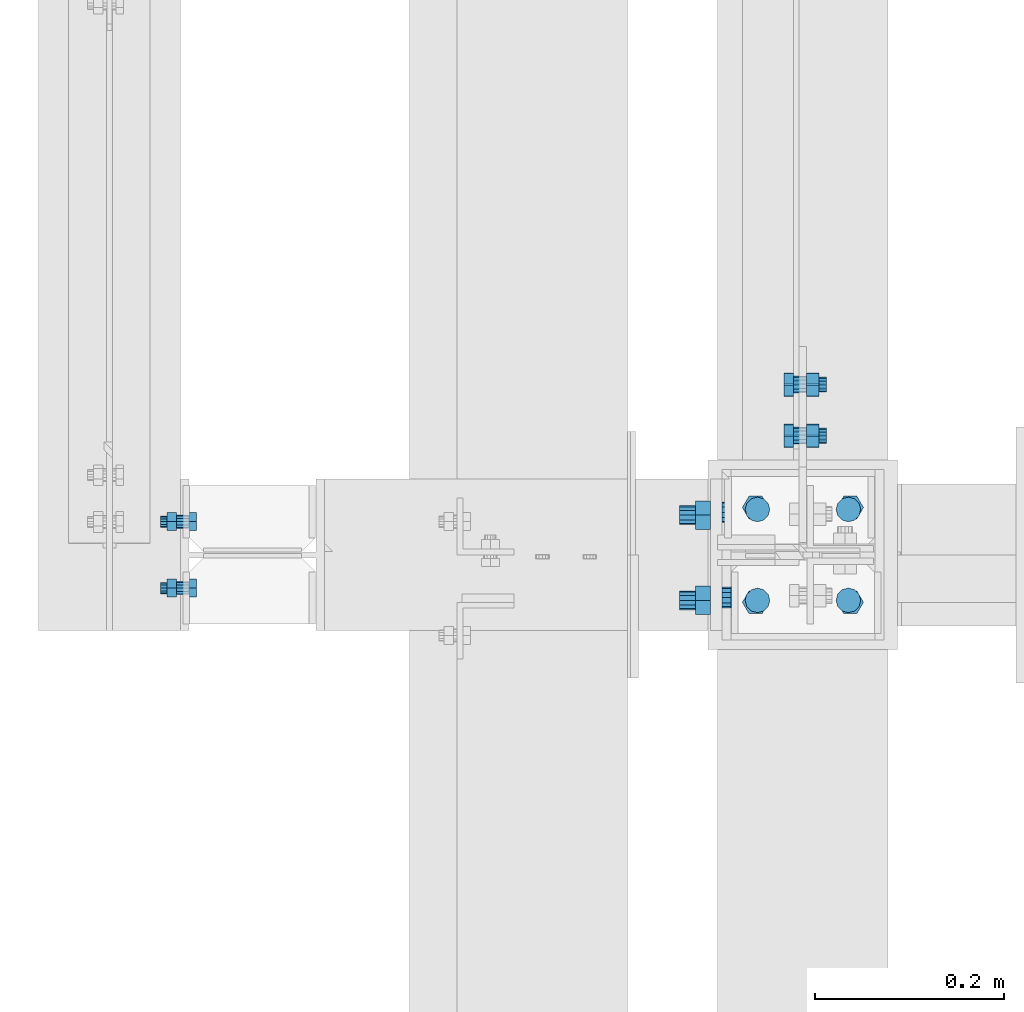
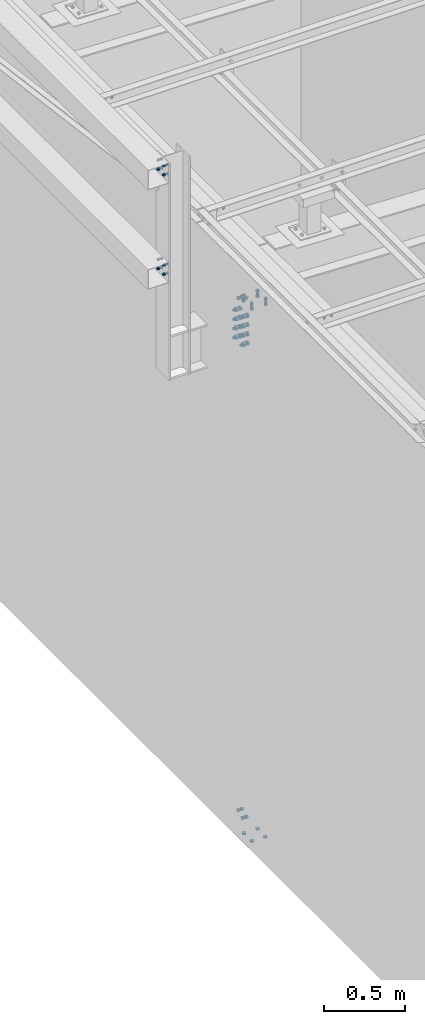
# One storey, part 181 of 3134: 9 mechanical fasteners, 4 elements without a shape of their own.
"""IFC2X3 building model written with IfcOpenShell, lengths in millimetres."""

import ifcopenshell
import ifcopenshell.guid

model = None  # the IFC model being written
_history = None  # IfcOwnerHistory: only IFC2X3 demands one
_inside = {}  # id of a spatial element -> (the spatial element, [elements in it])
_under = {}  # id of a project, library or spatial element -> (it, [spatial elements below it])
_declared = {}  # id of a project -> (the project, [libraries it declares])
_typed = {}  # id of a type object -> (the type object, [elements of that type])
_made_of = {}  # id of a material, layer set ... -> (it, [elements and type objects made of it])


def new_model(schema):
    """Start an empty IFC model of exactly this schema.

    Asked for "IFC4X3", IfcOpenShell would pick the latest addendum, in which some entities
    have other attributes; the version numbers below select the first issue.
    IFC2X3 requires an IfcOwnerHistory on every rooted entity: one is made here for all.
    """
    global model, _history
    if schema == "IFC4X3":
        model = ifcopenshell.file(schema_version=(4, 3, 0, 0))
    else:
        model = ifcopenshell.file(schema=schema)
    _inside.clear()
    _under.clear()
    _declared.clear()
    _typed.clear()
    _made_of.clear()
    _history = None
    if model.schema == "IFC2X3":
        org = make("IfcOrganization", Name="unknown")
        user = make(
            "IfcPersonAndOrganization",
            ThePerson=make("IfcPerson", FamilyName="unknown"),
            TheOrganization=org,
        )
        app = make(
            "IfcApplication",
            ApplicationDeveloper=org,
            Version="unknown",
            ApplicationFullName="unknown",
            ApplicationIdentifier="unknown",
        )
        _history = make(
            "IfcOwnerHistory",
            OwningUser=user,
            OwningApplication=app,
            ChangeAction="ADDED",
            CreationDate=0,
        )
    return model


def make(cls, **values):
    """One entity of the class cls with the attributes given. An attribute that is None is left unset."""
    return model.create_entity(
        cls, **{name: value for name, value in values.items() if value is not None}
    )


def rooted(cls, **values):
    """An entity with a GlobalId (a new one), such as an element, a storey or a relation."""
    return make(cls, GlobalId=ifcopenshell.guid.new(), OwnerHistory=_history, **values)


def si_unit(unit_type, name, prefix=None):
    """IfcSIUnit, for example si_unit("LENGTHUNIT", "METRE", prefix="MILLI")."""
    return make("IfcSIUnit", UnitType=unit_type, Prefix=prefix, Name=name)


def assignment(units):
    """IfcUnitAssignment: the units of a project."""
    return None if units is None else make("IfcUnitAssignment", Units=units)


def point(xyz):
    """IfcCartesianPoint."""
    return None if xyz is None else make("IfcCartesianPoint", Coordinates=xyz)


def direction(xyz):
    """IfcDirection."""
    return None if xyz is None else make("IfcDirection", DirectionRatios=xyz)


def frame(location, z_axis=None, x_axis=None):
    """IfcAxis2Placement3D, a coordinate frame: its origin and axes. An axis left out is left unset."""
    return make(
        "IfcAxis2Placement3D",
        Location=point(location),
        Axis=direction(z_axis),
        RefDirection=direction(x_axis),
    )


def origin_with_axes():
    """The frame at (0, 0, 0) with the z axis (0, 0, 1) and the x axis (1, 0, 0) written out."""
    return frame((0.0, 0.0, 0.0), z_axis=(0.0, 0.0, 1.0), x_axis=(1.0, 0.0, 0.0))


def place(relative_to, where):
    """IfcLocalPlacement: puts the frame where relative to a parent placement (None: the world)."""
    return make(
        "IfcLocalPlacement", PlacementRelTo=relative_to, RelativePlacement=where
    )


def context(
    kind, dimensions, precision=None, world=None, true_north=None, identifier=None
):
    """IfcGeometricRepresentationContext, for example the 3D "Model" context."""
    return make(
        "IfcGeometricRepresentationContext",
        ContextIdentifier=identifier,
        ContextType=kind,
        CoordinateSpaceDimension=dimensions,
        Precision=precision,
        WorldCoordinateSystem=world,
        TrueNorth=true_north,
    )


def subcontext(parent, identifier, kind, view, scale=None):
    """IfcGeometricRepresentationSubContext, for example "Body" below "Model"."""
    return make(
        "IfcGeometricRepresentationSubContext",
        ContextIdentifier=identifier,
        ContextType=kind,
        ParentContext=parent,
        TargetScale=scale,
        TargetView=view,
    )


def project(units=None, contexts=None):
    """IfcProject with its units and contexts."""
    return rooted(
        "IfcProject",
        Name="project",
        RepresentationContexts=contexts,
        UnitsInContext=assignment(units),
    )


def spatial(cls, under=None, at=None, **own):
    """A site, building, storey or space (cls), placed at a placement, below another one or the project."""
    s = rooted(cls, ObjectPlacement=at, **own)
    if under is not None:
        _under.setdefault(under.id(), (under, []))[1].append(s)
    return s


def faces_of(points, faces, orient=None, outer=None):
    """IfcFace entities. A face is a list of loops; a loop is a list of indices into points, from 0.

    orient and outer hold one flag for each loop. By default every Orientation is true, the
    first loop of a face is its IfcFaceOuterBound and the others are IfcFaceBound.
    """
    made = []
    for i, loops in enumerate(faces):
        bounds = []
        for j, loop in enumerate(loops):
            is_outer = j == 0 if outer is None else outer[i][j]
            bounds.append(
                make(
                    "IfcFaceOuterBound" if is_outer else "IfcFaceBound",
                    Bound=make("IfcPolyLoop", Polygon=[points[k] for k in loop]),
                    Orientation=True if orient is None else orient[i][j],
                )
            )
        made.append(make("IfcFace", Bounds=bounds))
    return made


def faceted_brep(points, faces, orient=None, outer=None, voids=None):
    """IfcFacetedBrep: a solid bounded by flat faces; with voids (closed shells), ...WithVoids."""
    shared = [point(p) for p in points]
    hull = make("IfcClosedShell", CfsFaces=faces_of(shared, faces, orient, outer))
    if voids is None:
        return make("IfcFacetedBrep", Outer=hull)
    return make(
        "IfcFacetedBrepWithVoids",
        Outer=hull,
        Voids=[
            make(cls, CfsFaces=faces_of(shared, fs, o, b)) for cls, fs, o, b in voids
        ],
    )


def shape(context_of_items, identifier, shape_type, items):
    """IfcShapeRepresentation: the items that make up one representation, for example the "Body"."""
    return make(
        "IfcShapeRepresentation",
        ContextOfItems=context_of_items,
        RepresentationIdentifier=identifier,
        RepresentationType=shape_type,
        Items=items,
    )


def source(mapping_origin, context_of_items, identifier, shape_type, items):
    """IfcRepresentationMap: a shape defined once, which mapped items show again and again."""
    return make(
        "IfcRepresentationMap",
        MappingOrigin=mapping_origin,
        MappedRepresentation=shape(context_of_items, identifier, shape_type, items),
    )


def transform(
    local_origin,
    x_axis=None,
    y_axis=None,
    z_axis=None,
    scale=None,
    scale2=None,
    scale3=None,
    uniform=True,
):
    """IfcCartesianTransformationOperator3D, or its non-uniform kind. x_axis, y_axis, z_axis: its Axis1, 2, 3."""
    if uniform:
        return make(
            "IfcCartesianTransformationOperator3D",
            Axis1=direction(x_axis),
            Axis2=direction(y_axis),
            LocalOrigin=point(local_origin),
            Scale=scale,
            Axis3=direction(z_axis),
        )
    return make(
        "IfcCartesianTransformationOperator3DnonUniform",
        Axis1=direction(x_axis),
        Axis2=direction(y_axis),
        LocalOrigin=point(local_origin),
        Scale=scale,
        Axis3=direction(z_axis),
        Scale2=scale2,
        Scale3=scale3,
    )


def mapped(mapping_source, mapping_target):
    """IfcMappedItem: shows the shape of a source again, moved by a transform."""
    return make(
        "IfcMappedItem", MappingSource=mapping_source, MappingTarget=mapping_target
    )


def material(Name=None, Category=None):
    """IfcMaterial."""
    return make("IfcMaterial", Name=Name, Category=Category)


def made_of(thing, what):
    """Note that an element or type object is made of a material, layer set ...; save() writes the relation."""
    if what is not None:
        _made_of.setdefault(what.id(), (what, []))[1].append(thing)
    return thing


def type_object(cls, material=None, **own):
    """A type object (cls), such as IfcWallType, which elements share."""
    return made_of(rooted(cls, **own), material)


def element(
    cls,
    number,
    at=None,
    inside=None,
    cuts=None,
    type_object=None,
    material=None,
    context=None,
    identifier="Body",
    shape_type=None,
    held_by="IfcProductDefinitionShape",
    body=None,
    shapes=None,
    **own,
):
    """One element of the class cls, such as IfcWall. Its Tag is "e" and its number.

    at: its placement. inside: the storey or other place that contains it. cuts: it is an
    opening in that element (IfcRelVoidsElement). A single representation is given by context,
    identifier, shape_type and body (its items); several are given by shapes. held_by: the class
    of the entity that holds the representations. save() writes the other relations.
    """
    e = rooted(cls, Tag="e%d" % number, ObjectPlacement=at, **own)
    if body is not None:
        shapes = [shape(context, identifier, shape_type, body)]
    if shapes is not None:
        e.Representation = make(held_by, Representations=shapes)
    if inside is not None:
        _inside.setdefault(inside.id(), (inside, []))[1].append(e)
    if cuts is not None:
        rooted(
            "IfcRelVoidsElement", RelatingBuildingElement=cuts, RelatedOpeningElement=e
        )
    if type_object is not None:
        _typed.setdefault(type_object.id(), (type_object, []))[1].append(e)
    return made_of(e, material)


def aggregate(whole, parts):
    """IfcRelAggregates: a whole, such as a stair, and the parts it consists of."""
    return rooted("IfcRelAggregates", RelatingObject=whole, RelatedObjects=parts)


def save(model, path):
    """Write the relations noted so far, then the file.

    IfcRelAggregates (storeys below a building ...), IfcRelContainedInSpatialStructure (elements
    in a storey), IfcRelDefinesByType, IfcRelAssociatesMaterial and IfcRelDeclares: one each for
    every whole, place, type object, material and project.
    """
    for whole, parts in _under.values():
        aggregate(whole, parts)
    for where, things in _inside.values():
        rooted(
            "IfcRelContainedInSpatialStructure",
            RelatedElements=things,
            RelatingStructure=where,
        )
    for kind, things in _typed.values():
        rooted("IfcRelDefinesByType", RelatedObjects=things, RelatingType=kind)
    for what, things in _made_of.values():
        rooted("IfcRelAssociatesMaterial", RelatedObjects=things, RelatingMaterial=what)
    for by, libraries in _declared.values():
        rooted("IfcRelDeclares", RelatingContext=by, RelatedDefinitions=libraries)
    model.write(path)


model = new_model("IFC2X3")

# Units and contexts
model_context = context("Model", 3, precision=1e-05, world=origin_with_axes())
body_context = subcontext(model_context, "Body", "Model", "MODEL_VIEW")
ifc_project = project(units=[si_unit("LENGTHUNIT", "METRE", prefix="MILLI"), si_unit("AREAUNIT", "SQUARE_METRE"), si_unit("VOLUMEUNIT", "CUBIC_METRE"), si_unit("MASSUNIT", "GRAM", prefix="KILO"), si_unit("TIMEUNIT", "SECOND"), si_unit("PLANEANGLEUNIT", "RADIAN"), si_unit("SOLIDANGLEUNIT", "STERADIAN"), si_unit("THERMODYNAMICTEMPERATUREUNIT", "DEGREE_CELSIUS"), si_unit("LUMINOUSINTENSITYUNIT", "LUMEN")], contexts=[model_context])

# Site, building, storey
site_placement = place(None, origin_with_axes())
site = spatial("IfcSite", under=ifc_project, at=site_placement, CompositionType="ELEMENT")
building_placement = place(site_placement, origin_with_axes())
building = spatial("IfcBuilding", under=site, at=building_placement, Name="Undefined", CompositionType="ELEMENT")
storey_placement = place(building_placement, origin_with_axes())
storey = spatial("IfcBuildingStorey", under=building, at=storey_placement, Name="Undefined", CompositionType="ELEMENT", Elevation=0.0)

# Assembly, mechanical fasteners
assembly_1_placement = place(storey_placement, origin_with_axes())
assembly_1 = element("IfcElementAssembly", 1, at=assembly_1_placement, inside=storey, Name="HEA160", AssemblyPlace="NOTDEFINED", PredefinedType="RIGID_FRAME")
ifc_material = material(Name="8.8")
mechanical_fastener_type = type_object("IfcMechanicalFastenerType", Name="Bolt assembly")
shared_shape_1 = source(origin_with_axes(), body_context, "Body", "Brep", [
    faceted_brep([(10.9696551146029, -17.0000000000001, 0.0), (5.48482755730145, -17.0000000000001, 9.5), (-5.48482755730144, -17.0000000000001, 9.5), (-10.9696551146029, -17.0000000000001, 1.34339530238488e-15), (-5.48482755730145, -17.0000000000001, -9.5), (5.48482755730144, -17.0000000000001, -9.50000000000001), (5.48482755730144, -9.00000000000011, -9.50000000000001), (-5.48482755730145, -9.00000000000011, -9.5), (-10.9696551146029, -9.00000000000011, 1.34339530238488e-15), (-5.48482755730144, -9.00000000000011, 9.5), (5.48482755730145, -9.00000000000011, 9.5), (10.9696551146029, -9.00000000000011, 0.0), (6.0, -9.00000000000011, 0.0), (5.19615242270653, -9.00000000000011, 3.00000000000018), (2.99999999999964, -9.00000000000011, 5.19615242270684), (-6.21801588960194e-13, -9.00000000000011, 6.0), (-3.00000000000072, -9.00000000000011, 5.19615242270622), (-5.19615242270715, -9.00000000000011, 2.9999999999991), (-6.0, -9.00000000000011, -1.24360317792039e-12), (-5.19615242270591, -9.00000000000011, -3.00000000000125), (-2.99999999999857, -9.00000000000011, -5.19615242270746), (1.85874342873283e-12, -9.00000000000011, -6.0), (3.00000000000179, -9.00000000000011, -5.1961524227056), (5.19615242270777, -9.00000000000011, -2.99999999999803), (5.19615242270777, 21.0, -2.99999999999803), (3.00000000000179, 21.0, -5.1961524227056), (1.85874342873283e-12, 21.0, -6.0), (-2.99999999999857, 21.0, -5.19615242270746), (-5.19615242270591, 21.0, -3.00000000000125), (-6.0, 21.0, -1.24360317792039e-12), (-5.19615242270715, 21.0, 2.9999999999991), (-3.00000000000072, 21.0, 5.19615242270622), (-6.21801588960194e-13, 21.0, 6.0), (2.99999999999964, 21.0, 5.19615242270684), (5.19615242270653, 21.0, 3.00000000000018), (6.0, 21.0, 0.0), (10.9696551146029, 4.00000000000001, 0.0), (5.48482755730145, 4.00000000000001, 9.5), (-5.48482755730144, 4.00000000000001, 9.5), (-10.9696551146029, 4.00000000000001, 1.34339530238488e-15), (-5.48482755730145, 4.00000000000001, -9.5), (5.48482755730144, 4.00000000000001, -9.50000000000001), (5.48482755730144, 14.0, -9.50000000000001), (-5.48482755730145, 14.0, -9.5), (-10.9696551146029, 14.0, 1.34339530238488e-15), (-5.48482755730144, 14.0, 9.5), (5.48482755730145, 14.0, 9.5), (10.9696551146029, 14.0, 0.0)], [[[0, 1, 2, 3, 4, 5]], [[6, 7, 8, 9, 10, 11]], [[0, 11, 10, 1]], [[1, 10, 9, 2]], [[2, 9, 8, 3]], [[3, 8, 7, 4]], [[4, 7, 6, 5]], [[5, 6, 11, 0]], [[12, 13, 14, 15, 16, 17, 18, 19, 20, 21, 22, 23]], [[24, 25, 26, 27, 28, 29, 30, 31, 32, 33, 34, 35]], [[12, 35, 34, 13]], [[13, 34, 33, 14]], [[14, 33, 32, 15]], [[15, 32, 31, 16]], [[16, 31, 30, 17]], [[17, 30, 29, 18]], [[18, 29, 28, 19]], [[19, 28, 27, 20]], [[20, 27, 26, 21]], [[21, 26, 25, 22]], [[22, 25, 24, 23]], [[23, 24, 35, 12]], [[36, 37, 38, 39, 40, 41]], [[42, 43, 44, 45, 46, 47]], [[36, 47, 46, 37]], [[37, 46, 45, 38]], [[38, 45, 44, 39]], [[39, 44, 43, 40]], [[40, 43, 42, 41]], [[41, 42, 47, 36]]]),
    faceted_brep([(7.0, -0.1, 0.0), (6.06217782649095, -0.1, 3.50000000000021), (3.49999999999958, -0.1, 6.06217782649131), (-7.25435187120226e-13, -0.1, 7.0), (-3.50000000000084, -0.1, 6.06217782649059), (-6.06217782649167, -0.1, 3.49999999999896), (-7.0, -0.1, -1.45087037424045e-12), (-6.06217782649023, -0.1, -3.50000000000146), (-3.49999999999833, -0.1, -6.06217782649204), (2.1685340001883e-12, -0.1, -7.0), (3.50000000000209, -0.1, -6.06217782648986), (6.0621778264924, -0.1, -3.4999999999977), (6.0621778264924, 4.00000000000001, -3.4999999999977), (3.50000000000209, 4.00000000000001, -6.06217782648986), (2.1685340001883e-12, 4.00000000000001, -7.0), (-3.49999999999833, 4.00000000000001, -6.06217782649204), (-6.06217782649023, 4.00000000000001, -3.50000000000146), (-7.0, 4.00000000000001, -1.45087037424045e-12), (-6.06217782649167, 4.00000000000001, 3.49999999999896), (-3.50000000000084, 4.00000000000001, 6.06217782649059), (-7.25435187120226e-13, 4.00000000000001, 7.0), (3.49999999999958, 4.00000000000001, 6.06217782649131), (6.06217782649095, 4.00000000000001, 3.50000000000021), (7.0, 4.00000000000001, 0.0), (7.0, -8.90000000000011, 0.0), (6.06217782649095, -8.90000000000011, 3.50000000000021), (3.49999999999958, -8.90000000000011, 6.06217782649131), (-7.25435187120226e-13, -8.90000000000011, 7.0), (-3.50000000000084, -8.90000000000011, 6.06217782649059), (-6.06217782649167, -8.90000000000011, 3.49999999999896), (-7.0, -8.90000000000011, -1.45087037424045e-12), (-6.06217782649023, -8.90000000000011, -3.50000000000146), (-3.49999999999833, -8.90000000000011, -6.06217782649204), (2.1685340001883e-12, -8.90000000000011, -7.0), (3.50000000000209, -8.90000000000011, -6.06217782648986), (6.0621778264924, -8.90000000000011, -3.4999999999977), (6.0621778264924, 0.0999999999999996, -3.4999999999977), (3.50000000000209, 0.0999999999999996, -6.06217782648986), (2.1685340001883e-12, 0.0999999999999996, -7.0), (-3.49999999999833, 0.0999999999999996, -6.06217782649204), (-6.06217782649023, 0.0999999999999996, -3.50000000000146), (-7.0, 0.0999999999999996, -1.45087037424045e-12), (-6.06217782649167, 0.0999999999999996, 3.49999999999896), (-3.50000000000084, 0.0999999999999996, 6.06217782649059), (-7.25435187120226e-13, 0.0999999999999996, 7.0), (3.49999999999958, 0.0999999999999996, 6.06217782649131), (6.06217782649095, 0.0999999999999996, 3.50000000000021), (7.0, 0.0999999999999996, 0.0)], [[[0, 1, 2, 3, 4, 5, 6, 7, 8, 9, 10, 11]], [[12, 13, 14, 15, 16, 17, 18, 19, 20, 21, 22, 23]], [[0, 23, 22, 1]], [[1, 22, 21, 2]], [[2, 21, 20, 3]], [[3, 20, 19, 4]], [[4, 19, 18, 5]], [[5, 18, 17, 6]], [[6, 17, 16, 7]], [[7, 16, 15, 8]], [[8, 15, 14, 9]], [[9, 14, 13, 10]], [[10, 13, 12, 11]], [[11, 12, 23, 0]], [[24, 25, 26, 27, 28, 29, 30, 31, 32, 33, 34, 35]], [[36, 37, 38, 39, 40, 41, 42, 43, 44, 45, 46, 47]], [[24, 47, 46, 25]], [[25, 46, 45, 26]], [[26, 45, 44, 27]], [[27, 44, 43, 28]], [[28, 43, 42, 29]], [[29, 42, 41, 30]], [[30, 41, 40, 31]], [[31, 40, 39, 32]], [[32, 39, 38, 33]], [[33, 38, 37, 34]], [[34, 37, 36, 35]], [[35, 36, 47, 24]]]),
])
mechanical_fastener_1_placement = place(assembly_1_placement, frame((-657.0, 40250.0, 4160.0), z_axis=(0.0, 1.0, 0.0), x_axis=(0.0, 0.0, -1.0)))
mechanical_fastener_1 = element("IfcMechanicalFastener", 2, at=mechanical_fastener_1_placement, type_object=mechanical_fastener_type, material=ifc_material, Name="Bolt assembly", NominalDiameter=12.0, NominalLength=30.0, context=body_context, shape_type="MappedRepresentation", body=[
    mapped(shared_shape_1, transform((0.0, 0.0, -35.0))),
    mapped(shared_shape_1, transform((70.0, 0.0, -35.0))),
    mapped(shared_shape_1, transform((0.0, 0.0, 35.0))),
    mapped(shared_shape_1, transform((70.0, 0.0, 35.0))),
])
mechanical_fastener_2_placement = place(assembly_1_placement, frame((-657.0, 40250.0, 4910.0), z_axis=(0.0, 1.0, 0.0), x_axis=(0.0, 0.0, -1.0)))
mechanical_fastener_2 = element("IfcMechanicalFastener", 3, at=mechanical_fastener_2_placement, type_object=mechanical_fastener_type, material=ifc_material, Name="Bolt assembly", NominalDiameter=12.0, NominalLength=30.0, context=body_context, shape_type="MappedRepresentation", body=[
    mapped(shared_shape_1, transform((0.0, 0.0, -35.0))),
    mapped(shared_shape_1, transform((70.0, 0.0, -35.0))),
    mapped(shared_shape_1, transform((0.0, 0.0, 35.0))),
    mapped(shared_shape_1, transform((70.0, 0.0, 35.0))),
])
shared_shape_2 = source(origin_with_axes(), body_context, "Body", "Brep", [
    faceted_brep([(17.3205080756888, -13.0, 0.0), (8.66025403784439, -13.0, 15.0), (-8.66025403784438, -13.0, 15.0), (-17.3205080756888, -13.0, 2.12115047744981e-15), (-8.66025403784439, -13.0, -15.0), (8.66025403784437, -13.0, -15.0), (8.66025403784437, 0.0, -15.0), (-8.66025403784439, 0.0, -15.0), (-17.3205080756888, 0.0, 2.12115047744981e-15), (-8.66025403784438, 0.0, 15.0), (8.66025403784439, 0.0, 15.0), (17.3205080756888, 0.0, 0.0), (10.0, 0.0, 0.0), (8.66025403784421, 0.0, 5.0000000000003), (4.9999999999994, 0.0, 8.66025403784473), (-1.03633598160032e-12, 0.0, 10.0), (-5.00000000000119, 0.0, 8.6602540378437), (-8.66025403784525, 0.0, 4.99999999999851), (-10.0, 0.0, -2.07267196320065e-12), (-8.66025403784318, 0.0, -5.00000000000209), (-4.99999999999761, 0.0, -8.66025403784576), (3.09790571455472e-12, 0.0, -10.0), (5.00000000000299, 0.0, -8.66025403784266), (8.66025403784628, 0.0, -4.99999999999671), (8.66025403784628, 45.0, -4.99999999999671), (5.00000000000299, 45.0, -8.66025403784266), (3.09790571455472e-12, 45.0, -10.0), (-4.99999999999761, 45.0, -8.66025403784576), (-8.66025403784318, 45.0, -5.00000000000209), (-10.0, 45.0, -2.07267196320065e-12), (-8.66025403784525, 45.0, 4.99999999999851), (-5.00000000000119, 45.0, 8.6602540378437), (-1.03633598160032e-12, 45.0, 10.0), (4.9999999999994, 45.0, 8.66025403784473), (8.66025403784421, 45.0, 5.0000000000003), (10.0, 45.0, 0.0), (17.3205080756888, 12.0, 0.0), (8.66025403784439, 12.0, 15.0), (-8.66025403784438, 12.0, 15.0), (-17.3205080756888, 12.0, 2.12115047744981e-15), (-8.66025403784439, 12.0, -15.0), (8.66025403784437, 12.0, -15.0), (8.66025403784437, 28.0, -15.0), (-8.66025403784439, 28.0, -15.0), (-17.3205080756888, 28.0, 2.12115047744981e-15), (-8.66025403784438, 28.0, 15.0), (8.66025403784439, 28.0, 15.0), (17.3205080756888, 28.0, 0.0)], [[[0, 1, 2, 3, 4, 5]], [[6, 7, 8, 9, 10, 11]], [[0, 11, 10, 1]], [[1, 10, 9, 2]], [[2, 9, 8, 3]], [[3, 8, 7, 4]], [[4, 7, 6, 5]], [[5, 6, 11, 0]], [[12, 13, 14, 15, 16, 17, 18, 19, 20, 21, 22, 23]], [[24, 25, 26, 27, 28, 29, 30, 31, 32, 33, 34, 35]], [[12, 35, 34, 13]], [[13, 34, 33, 14]], [[14, 33, 32, 15]], [[15, 32, 31, 16]], [[16, 31, 30, 17]], [[17, 30, 29, 18]], [[18, 29, 28, 19]], [[19, 28, 27, 20]], [[20, 27, 26, 21]], [[21, 26, 25, 22]], [[22, 25, 24, 23]], [[23, 24, 35, 12]], [[36, 37, 38, 39, 40, 41]], [[42, 43, 44, 45, 46, 47]], [[36, 47, 46, 37]], [[37, 46, 45, 38]], [[38, 45, 44, 39]], [[39, 44, 43, 40]], [[40, 43, 42, 41]], [[41, 42, 47, 36]]]),
    faceted_brep([(11.0, 0.0, 0.0), (9.52627944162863, 0.0, 5.50000000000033), (5.49999999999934, 0.0, 9.5262794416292), (-1.13996957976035e-12, 0.0, 11.0), (-5.50000000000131, 0.0, 9.52627944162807), (-9.52627944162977, 0.0, 5.49999999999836), (-11.0, 0.0, -2.27993915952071e-12), (-9.5262794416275, 0.0, -5.5000000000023), (-5.49999999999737, 0.0, -9.52627944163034), (3.40769628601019e-12, 0.0, -11.0), (5.50000000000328, 0.0, -9.52627944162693), (9.52627944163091, 0.0, -5.49999999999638), (9.52627944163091, 12.1, -5.49999999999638), (5.50000000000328, 12.1, -9.52627944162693), (3.40769628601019e-12, 12.1, -11.0), (-5.49999999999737, 12.1, -9.52627944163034), (-9.5262794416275, 12.1, -5.5000000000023), (-11.0, 12.1, -2.27993915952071e-12), (-9.52627944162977, 12.1, 5.49999999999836), (-5.50000000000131, 12.1, 9.52627944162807), (-1.13996957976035e-12, 12.1, 11.0), (5.49999999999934, 12.1, 9.5262794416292), (9.52627944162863, 12.1, 5.50000000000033), (11.0, 12.1, 0.0)], [[[0, 1, 2, 3, 4, 5, 6, 7, 8, 9, 10, 11]], [[12, 13, 14, 15, 16, 17, 18, 19, 20, 21, 22, 23]], [[0, 23, 22, 1]], [[1, 22, 21, 2]], [[2, 21, 20, 3]], [[3, 20, 19, 4]], [[4, 19, 18, 5]], [[5, 18, 17, 6]], [[6, 17, 16, 7]], [[7, 16, 15, 8]], [[8, 15, 14, 9]], [[9, 14, 13, 10]], [[10, 13, 12, 11]], [[11, 12, 23, 0]]]),
])
mechanical_fastener_3_placement = place(assembly_1_placement, frame((-85.5, 40247.0, 3583.0), z_axis=(0.0, 1.0, 0.0), x_axis=(0.0, 0.0, -1.0)))
mechanical_fastener_3 = element("IfcMechanicalFastener", 4, at=mechanical_fastener_3_placement, type_object=mechanical_fastener_type, material=ifc_material, Name="Bolt assembly", NominalDiameter=20.0, NominalLength=45.0, context=body_context, shape_type="MappedRepresentation", body=[
    mapped(shared_shape_2, transform((0.0, 0.0, -45.0))),
    mapped(shared_shape_2, transform((70.0, 0.0, -45.0))),
    mapped(shared_shape_2, transform((140.0, 0.0, -45.0))),
    mapped(shared_shape_2, transform((210.0, 0.0, -45.0))),
    mapped(shared_shape_2, transform((0.0, 0.0, 45.0))),
    mapped(shared_shape_2, transform((70.0, 0.0, 45.0))),
    mapped(shared_shape_2, transform((140.0, 0.0, 45.0))),
    mapped(shared_shape_2, transform((210.0, 0.0, 45.0))),
])
aggregate(assembly_1, [mechanical_fastener_1, mechanical_fastener_2, mechanical_fastener_3])

assembly_2_placement = place(storey_placement, origin_with_axes())
assembly_2 = element("IfcElementAssembly", 5, at=assembly_2_placement, inside=storey, Name="HEA180", AssemblyPlace="NOTDEFINED", PredefinedType="RIGID_FRAME")
shared_shape_3 = source(origin_with_axes(), body_context, "Body", "Brep", [
    faceted_brep([(11.0, -9.5, 0.0), (9.52627944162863, -9.5, 5.50000000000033), (5.49999999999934, -9.5, 9.5262794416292), (-1.13996957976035e-12, -9.5, 11.0), (-5.50000000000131, -9.5, 9.52627944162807), (-9.52627944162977, -9.5, 5.49999999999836), (-11.0, -9.5, -2.27993915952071e-12), (-9.5262794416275, -9.5, -5.5000000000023), (-5.49999999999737, -9.5, -9.52627944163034), (3.40769628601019e-12, -9.5, -11.0), (5.50000000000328, -9.5, -9.52627944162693), (9.52627944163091, -9.5, -5.49999999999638), (9.52627944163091, 0.0999999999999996, -5.49999999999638), (5.50000000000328, 0.0999999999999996, -9.52627944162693), (3.40769628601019e-12, 0.0999999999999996, -11.0), (-5.49999999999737, 0.0999999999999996, -9.52627944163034), (-9.5262794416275, 0.0999999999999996, -5.5000000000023), (-11.0, 0.0999999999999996, -2.27993915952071e-12), (-9.52627944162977, 0.0999999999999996, 5.49999999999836), (-5.50000000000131, 0.0999999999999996, 9.52627944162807), (-1.13996957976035e-12, 0.0999999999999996, 11.0), (5.49999999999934, 0.0999999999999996, 9.5262794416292), (9.52627944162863, 0.0999999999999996, 5.50000000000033), (11.0, 0.0999999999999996, 0.0)], [[[0, 1, 2, 3, 4, 5, 6, 7, 8, 9, 10, 11]], [[12, 13, 14, 15, 16, 17, 18, 19, 20, 21, 22, 23]], [[0, 23, 22, 1]], [[1, 22, 21, 2]], [[2, 21, 20, 3]], [[3, 20, 19, 4]], [[4, 19, 18, 5]], [[5, 18, 17, 6]], [[6, 17, 16, 7]], [[7, 16, 15, 8]], [[8, 15, 14, 9]], [[9, 14, 13, 10]], [[10, 13, 12, 11]], [[11, 12, 23, 0]]]),
])
mechanical_fastener_4_placement = place(assembly_2_placement, frame((-85.5, 40250.0, 3583.0), z_axis=(0.0, 1.0, 0.0), x_axis=(0.0, 0.0, -1.0)))
mechanical_fastener_4 = element("IfcMechanicalFastener", 6, at=mechanical_fastener_4_placement, type_object=mechanical_fastener_type, material=ifc_material, Name="Bolt assembly", NominalDiameter=20.0, NominalLength=9.5, context=body_context, shape_type="MappedRepresentation", body=[
    mapped(shared_shape_3, transform((0.0, 0.0, -45.0))),
    mapped(shared_shape_3, transform((70.0, 0.0, -45.0))),
    mapped(shared_shape_3, transform((140.0, 0.0, -45.0))),
    mapped(shared_shape_3, transform((210.0, 0.0, -45.0))),
    mapped(shared_shape_3, transform((0.0, 0.0, 45.0))),
    mapped(shared_shape_3, transform((70.0, 0.0, 45.0))),
    mapped(shared_shape_3, transform((140.0, 0.0, 45.0))),
    mapped(shared_shape_3, transform((210.0, 0.0, 45.0))),
])
shared_shape_4 = source(origin_with_axes(), body_context, "Body", "Brep", [
    faceted_brep([(13.0, 0.0, 0.0), (11.2583302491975, 0.0, 6.50000000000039), (6.49999999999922, 0.0, 11.2583302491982), (-1.34723677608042e-12, 0.0, 13.0), (-6.50000000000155, 0.0, 11.2583302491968), (-11.2583302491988, 0.0, 6.49999999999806), (-13.0, 0.0, -2.69447355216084e-12), (-11.2583302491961, 0.0, -6.50000000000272), (-6.4999999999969, 0.0, -11.2583302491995), (4.02727742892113e-12, 0.0, -13.0), (6.50000000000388, 0.0, -11.2583302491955), (11.2583302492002, 0.0, -6.49999999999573), (11.2583302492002, 12.1, -6.49999999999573), (6.50000000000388, 12.1, -11.2583302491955), (4.02727742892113e-12, 12.1, -13.0), (-6.4999999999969, 12.1, -11.2583302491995), (-11.2583302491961, 12.1, -6.50000000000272), (-13.0, 12.1, -2.69447355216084e-12), (-11.2583302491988, 12.1, 6.49999999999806), (-6.50000000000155, 12.1, 11.2583302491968), (-1.34723677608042e-12, 12.1, 13.0), (6.49999999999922, 12.1, 11.2583302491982), (11.2583302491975, 12.1, 6.50000000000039), (13.0, 12.1, 0.0)], [[[0, 1, 2, 3, 4, 5, 6, 7, 8, 9, 10, 11]], [[12, 13, 14, 15, 16, 17, 18, 19, 20, 21, 22, 23]], [[0, 23, 22, 1]], [[1, 22, 21, 2]], [[2, 21, 20, 3]], [[3, 20, 19, 4]], [[4, 19, 18, 5]], [[5, 18, 17, 6]], [[6, 17, 16, 7]], [[7, 16, 15, 8]], [[8, 15, 14, 9]], [[9, 14, 13, 10]], [[10, 13, 12, 11]], [[11, 12, 23, 0]]]),
])
mechanical_fastener_5_placement = place(assembly_2_placement, frame((48.0, 40250.0, -400.0), z_axis=(0.0, 1.0, 0.0), x_axis=(-1.0, 0.0, 0.0)))
mechanical_fastener_5 = element("IfcMechanicalFastener", 7, at=mechanical_fastener_5_placement, type_object=mechanical_fastener_type, material=ifc_material, Name="Bolt assembly", NominalDiameter=24.0, NominalLength=12.0, context=body_context, shape_type="MappedRepresentation", body=[
    mapped(shared_shape_4, transform((0.0, 0.0, -48.0))),
    mapped(shared_shape_4, transform((96.0, 0.0, -48.0))),
    mapped(shared_shape_4, transform((0.0, 0.0, 48.0))),
    mapped(shared_shape_4, transform((96.0, 0.0, 48.0))),
])

# Assembly, mechanical fastener
assembly_3_placement = place(storey_placement, origin_with_axes())
assembly_3 = element("IfcElementAssembly", 8, at=assembly_3_placement, inside=storey, AssemblyPlace="NOTDEFINED", PredefinedType="RIGID_FRAME")
shared_shape_5 = source(origin_with_axes(), body_context, "Body", "Brep", [
    faceted_brep([(13.856406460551, -20.0, 0.0), (6.92820323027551, -20.0, 12.0), (-6.92820323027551, -20.0, 12.0), (-13.856406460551, -20.0, 1.69692038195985e-15), (-6.92820323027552, -20.0, -12.0), (6.9282032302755, -20.0, -12.0), (6.9282032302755, -10.0, -12.0), (-6.92820323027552, -10.0, -12.0), (-13.856406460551, -10.0, 1.69692038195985e-15), (-6.92820323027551, -10.0, 12.0), (6.92820323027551, -10.0, 12.0), (13.856406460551, -10.0, 0.0), (8.0, -10.0, 0.0), (6.92820323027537, -10.0, 4.00000000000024), (3.99999999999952, -10.0, 6.92820323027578), (-8.29068785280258e-13, -10.0, 8.0), (-4.00000000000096, -10.0, 6.92820323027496), (-6.9282032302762, -10.0, 3.99999999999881), (-8.0, -10.0, -1.65813757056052e-12), (-6.92820323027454, -10.0, -4.00000000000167), (-3.99999999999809, -10.0, -6.92820323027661), (2.47832457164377e-12, -10.0, -8.0), (4.00000000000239, -10.0, -6.92820323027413), (6.92820323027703, -10.0, -3.99999999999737), (6.92820323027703, 25.0, -3.99999999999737), (4.00000000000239, 25.0, -6.92820323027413), (2.47832457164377e-12, 25.0, -8.0), (-3.99999999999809, 25.0, -6.92820323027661), (-6.92820323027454, 25.0, -4.00000000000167), (-8.0, 25.0, -1.65813757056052e-12), (-6.9282032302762, 25.0, 3.99999999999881), (-4.00000000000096, 25.0, 6.92820323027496), (-8.29068785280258e-13, 25.0, 8.0), (3.99999999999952, 25.0, 6.92820323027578), (6.92820323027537, 25.0, 4.00000000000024), (8.0, 25.0, 0.0), (13.856406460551, 3.99999999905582, 0.0), (6.92820323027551, 3.99999999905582, 12.0), (-6.92820323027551, 3.99999999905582, 12.0), (-13.856406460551, 3.99999999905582, 1.69692038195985e-15), (-6.92820323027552, 3.99999999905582, -12.0), (6.9282032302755, 3.99999999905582, -12.0), (6.9282032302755, 16.9999999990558, -12.0), (-6.92820323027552, 16.9999999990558, -12.0), (-13.856406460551, 16.9999999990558, 1.69692038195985e-15), (-6.92820323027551, 16.9999999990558, 12.0), (6.92820323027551, 16.9999999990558, 12.0), (13.856406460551, 16.9999999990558, 0.0)], [[[0, 1, 2, 3, 4, 5]], [[6, 7, 8, 9, 10, 11]], [[0, 11, 10, 1]], [[1, 10, 9, 2]], [[2, 9, 8, 3]], [[3, 8, 7, 4]], [[4, 7, 6, 5]], [[5, 6, 11, 0]], [[12, 13, 14, 15, 16, 17, 18, 19, 20, 21, 22, 23]], [[24, 25, 26, 27, 28, 29, 30, 31, 32, 33, 34, 35]], [[12, 35, 34, 13]], [[13, 34, 33, 14]], [[14, 33, 32, 15]], [[15, 32, 31, 16]], [[16, 31, 30, 17]], [[17, 30, 29, 18]], [[18, 29, 28, 19]], [[19, 28, 27, 20]], [[20, 27, 26, 21]], [[21, 26, 25, 22]], [[22, 25, 24, 23]], [[23, 24, 35, 12]], [[36, 37, 38, 39, 40, 41]], [[42, 43, 44, 45, 46, 47]], [[36, 47, 46, 37]], [[37, 46, 45, 38]], [[38, 45, 44, 39]], [[39, 44, 43, 40]], [[40, 43, 42, 41]], [[41, 42, 47, 36]]]),
    faceted_brep([(9.0, -4.10000000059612, 0.0), (7.79422863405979, -4.10000000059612, 4.50000000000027), (4.49999999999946, -4.10000000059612, 7.79422863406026), (-9.3270238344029e-13, -4.10000000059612, 9.0), (-4.50000000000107, -4.10000000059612, 7.79422863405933), (-7.79422863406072, -4.10000000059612, 4.49999999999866), (-9.0, -4.10000000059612, -1.86540476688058e-12), (-7.79422863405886, -4.10000000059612, -4.50000000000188), (-4.49999999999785, -4.10000000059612, -7.79422863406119), (2.78811514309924e-12, -4.10000000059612, -9.0), (4.50000000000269, -4.10000000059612, -7.7942286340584), (7.79422863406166, -4.10000000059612, -4.49999999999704), (7.79422863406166, 4.00000375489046, -4.49999999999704), (4.50000000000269, 4.00000375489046, -7.7942286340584), (2.78811514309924e-12, 4.00000375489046, -9.0), (-4.49999999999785, 4.00000375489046, -7.79422863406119), (-7.79422863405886, 4.00000375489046, -4.50000000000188), (-9.0, 4.00000375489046, -1.86540476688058e-12), (-7.79422863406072, 4.00000375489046, 4.49999999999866), (-4.50000000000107, 4.00000375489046, 7.79422863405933), (-9.3270238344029e-13, 4.00000375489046, 9.0), (4.49999999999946, 4.00000375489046, 7.79422863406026), (7.79422863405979, 4.00000375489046, 4.50000000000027), (9.0, 4.00000375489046, 0.0), (9.0, -9.89999997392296, 0.0), (7.79422863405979, -9.89999997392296, 4.50000000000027), (4.49999999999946, -9.89999997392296, 7.79422863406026), (-9.3270238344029e-13, -9.89999997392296, 9.0), (-4.50000000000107, -9.89999997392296, 7.79422863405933), (-7.79422863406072, -9.89999997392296, 4.49999999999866), (-9.0, -9.89999997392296, -1.86540476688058e-12), (-7.79422863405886, -9.89999997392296, -4.50000000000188), (-4.49999999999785, -9.89999997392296, -7.79422863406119), (2.78811514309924e-12, -9.89999997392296, -9.0), (4.50000000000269, -9.89999997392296, -7.7942286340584), (7.79422863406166, -9.89999997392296, -4.49999999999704), (7.79422863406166, -3.9, -4.49999999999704), (4.50000000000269, -3.9, -7.7942286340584), (2.78811514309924e-12, -3.9, -9.0), (-4.49999999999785, -3.9, -7.79422863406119), (-7.79422863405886, -3.9, -4.50000000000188), (-9.0, -3.9, -1.86540476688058e-12), (-7.79422863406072, -3.9, 4.49999999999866), (-4.50000000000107, -3.9, 7.79422863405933), (-9.3270238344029e-13, -3.9, 9.0), (4.49999999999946, -3.9, 7.79422863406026), (7.79422863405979, -3.9, 4.50000000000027), (9.0, -3.9, 0.0)], [[[0, 1, 2, 3, 4, 5, 6, 7, 8, 9, 10, 11]], [[12, 13, 14, 15, 16, 17, 18, 19, 20, 21, 22, 23]], [[0, 23, 22, 1]], [[1, 22, 21, 2]], [[2, 21, 20, 3]], [[3, 20, 19, 4]], [[4, 19, 18, 5]], [[5, 18, 17, 6]], [[6, 17, 16, 7]], [[7, 16, 15, 8]], [[8, 15, 14, 9]], [[9, 14, 13, 10]], [[10, 13, 12, 11]], [[11, 12, 23, 0]], [[24, 25, 26, 27, 28, 29, 30, 31, 32, 33, 34, 35]], [[36, 37, 38, 39, 40, 41, 42, 43, 44, 45, 46, 47]], [[24, 47, 46, 25]], [[25, 46, 45, 26]], [[26, 45, 44, 27]], [[27, 44, 43, 28]], [[28, 43, 42, 29]], [[29, 42, 41, 30]], [[30, 41, 40, 31]], [[31, 40, 39, 32]], [[32, 39, 38, 33]], [[33, 38, 37, 34]], [[34, 37, 36, 35]], [[35, 36, 47, 24]]]),
])
mechanical_fastener_6_placement = place(assembly_3_placement, frame((0.0, 40375.8071195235, -338.578760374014), z_axis=(0.0, 0.438723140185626, -0.898622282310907), x_axis=(0.0, 0.898622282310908, 0.438723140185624)))
mechanical_fastener_6 = element("IfcMechanicalFastener", 9, at=mechanical_fastener_6_placement, type_object=mechanical_fastener_type, material=ifc_material, Name="Bolt assembly", NominalDiameter=16.0, NominalLength=35.0, context=body_context, shape_type="MappedRepresentation", body=[
    mapped(shared_shape_5, transform((0.0, 0.0, 0.0))),
    mapped(shared_shape_5, transform((59.9999999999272, 0.0, 5.40239852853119e-10))),
])
aggregate(assembly_3, [mechanical_fastener_6])

assembly_4_placement = place(storey_placement, origin_with_axes())
assembly_4 = element("IfcElementAssembly", 10, at=assembly_4_placement, inside=storey, AssemblyPlace="NOTDEFINED", PredefinedType="RIGID_FRAME")
mechanical_fastener_7_placement = place(assembly_4_placement, frame((0.0, 40375.8071195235, 3578.57876037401), z_axis=(0.0, -0.438723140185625, -0.898622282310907), x_axis=(0.0, 0.898622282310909, -0.438723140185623)))
mechanical_fastener_7 = element("IfcMechanicalFastener", 11, at=mechanical_fastener_7_placement, type_object=mechanical_fastener_type, material=ifc_material, Name="Bolt assembly", NominalDiameter=16.0, NominalLength=35.0, context=body_context, shape_type="MappedRepresentation", body=[
    mapped(shared_shape_5, transform((0.0, 0.0, 0.0))),
    mapped(shared_shape_5, transform((59.9999999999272, 0.0, 5.40239852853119e-10))),
])
aggregate(assembly_4, [mechanical_fastener_7])

# Mechanical fastener
shared_shape_6 = source(origin_with_axes(), body_context, "Body", "Brep", [
    faceted_brep([(13.856406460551, -10.0, 0.0), (6.92820323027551, -10.0, 12.0), (-6.92820323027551, -10.0, 12.0), (-13.856406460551, -10.0, 1.69692038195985e-15), (-6.92820323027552, -10.0, -12.0), (6.9282032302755, -10.0, -12.0), (6.9282032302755, 0.0, -12.0), (-6.92820323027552, 0.0, -12.0), (-13.856406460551, 0.0, 1.69692038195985e-15), (-6.92820323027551, 0.0, 12.0), (6.92820323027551, 0.0, 12.0), (13.856406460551, 0.0, 0.0), (8.0, 0.0, 0.0), (6.92820323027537, 0.0, 4.00000000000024), (3.99999999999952, 0.0, 6.92820323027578), (-8.29068785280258e-13, 0.0, 8.0), (-4.00000000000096, 0.0, 6.92820323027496), (-6.9282032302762, 0.0, 3.99999999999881), (-8.0, 0.0, -1.65813757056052e-12), (-6.92820323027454, 0.0, -4.00000000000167), (-3.99999999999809, 0.0, -6.92820323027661), (2.47832457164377e-12, 0.0, -8.0), (4.00000000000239, 0.0, -6.92820323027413), (6.92820323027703, 0.0, -3.99999999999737), (6.92820323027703, 45.0, -3.99999999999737), (4.00000000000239, 45.0, -6.92820323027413), (2.47832457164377e-12, 45.0, -8.0), (-3.99999999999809, 45.0, -6.92820323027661), (-6.92820323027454, 45.0, -4.00000000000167), (-8.0, 45.0, -1.65813757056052e-12), (-6.9282032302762, 45.0, 3.99999999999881), (-4.00000000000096, 45.0, 6.92820323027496), (-8.29068785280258e-13, 45.0, 8.0), (3.99999999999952, 45.0, 6.92820323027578), (6.92820323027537, 45.0, 4.00000000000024), (8.0, 45.0, 0.0), (13.856406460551, 25.5, 0.0), (6.92820323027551, 25.5, 12.0), (-6.92820323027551, 25.5, 12.0), (-13.856406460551, 25.5, 1.69692038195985e-15), (-6.92820323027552, 25.5, -12.0), (6.9282032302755, 25.5, -12.0), (6.9282032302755, 38.5, -12.0), (-6.92820323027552, 38.5, -12.0), (-13.856406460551, 38.5, 1.69692038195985e-15), (-6.92820323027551, 38.5, 12.0), (6.92820323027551, 38.5, 12.0), (13.856406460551, 38.5, 0.0)], [[[0, 1, 2, 3, 4, 5]], [[6, 7, 8, 9, 10, 11]], [[0, 11, 10, 1]], [[1, 10, 9, 2]], [[2, 9, 8, 3]], [[3, 8, 7, 4]], [[4, 7, 6, 5]], [[5, 6, 11, 0]], [[12, 13, 14, 15, 16, 17, 18, 19, 20, 21, 22, 23]], [[24, 25, 26, 27, 28, 29, 30, 31, 32, 33, 34, 35]], [[12, 35, 34, 13]], [[13, 34, 33, 14]], [[14, 33, 32, 15]], [[15, 32, 31, 16]], [[16, 31, 30, 17]], [[17, 30, 29, 18]], [[18, 29, 28, 19]], [[19, 28, 27, 20]], [[20, 27, 26, 21]], [[21, 26, 25, 22]], [[22, 25, 24, 23]], [[23, 24, 35, 12]], [[36, 37, 38, 39, 40, 41]], [[42, 43, 44, 45, 46, 47]], [[36, 47, 46, 37]], [[37, 46, 45, 38]], [[38, 45, 44, 39]], [[39, 44, 43, 40]], [[40, 43, 42, 41]], [[41, 42, 47, 36]]]),
    faceted_brep([(9.0, 11.9, 0.0), (7.79422863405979, 11.9, 4.50000000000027), (4.49999999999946, 11.9, 7.79422863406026), (-9.3270238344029e-13, 11.9, 9.0), (-4.50000000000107, 11.9, 7.79422863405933), (-7.79422863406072, 11.9, 4.49999999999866), (-9.0, 11.9, -1.86540476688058e-12), (-7.79422863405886, 11.9, -4.50000000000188), (-4.49999999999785, 11.9, -7.79422863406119), (2.78811514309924e-12, 11.9, -9.0), (4.50000000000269, 11.9, -7.7942286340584), (7.79422863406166, 11.9, -4.49999999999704), (7.79422863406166, 25.5, -4.49999999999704), (4.50000000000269, 25.5, -7.7942286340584), (2.78811514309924e-12, 25.5, -9.0), (-4.49999999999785, 25.5, -7.79422863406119), (-7.79422863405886, 25.5, -4.50000000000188), (-9.0, 25.5, -1.86540476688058e-12), (-7.79422863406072, 25.5, 4.49999999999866), (-4.50000000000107, 25.5, 7.79422863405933), (-9.3270238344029e-13, 25.5, 9.0), (4.49999999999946, 25.5, 7.79422863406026), (7.79422863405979, 25.5, 4.50000000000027), (9.0, 25.5, 0.0), (9.0, 0.100000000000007, 0.0), (7.79422863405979, 0.100000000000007, 4.50000000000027), (4.49999999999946, 0.100000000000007, 7.79422863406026), (-9.3270238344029e-13, 0.100000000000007, 9.0), (-4.50000000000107, 0.100000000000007, 7.79422863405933), (-7.79422863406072, 0.100000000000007, 4.49999999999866), (-9.0, 0.100000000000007, -1.86540476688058e-12), (-7.79422863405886, 0.100000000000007, -4.50000000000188), (-4.49999999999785, 0.100000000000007, -7.79422863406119), (2.78811514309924e-12, 0.100000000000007, -9.0), (4.50000000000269, 0.100000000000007, -7.7942286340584), (7.79422863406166, 0.100000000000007, -4.49999999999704), (7.79422863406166, 12.1, -4.49999999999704), (4.50000000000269, 12.1, -7.7942286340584), (2.78811514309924e-12, 12.1, -9.0), (-4.49999999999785, 12.1, -7.79422863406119), (-7.79422863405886, 12.1, -4.50000000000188), (-9.0, 12.1, -1.86540476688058e-12), (-7.79422863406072, 12.1, 4.49999999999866), (-4.50000000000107, 12.1, 7.79422863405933), (-9.3270238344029e-13, 12.1, 9.0), (4.49999999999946, 12.1, 7.79422863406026), (7.79422863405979, 12.1, 4.50000000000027), (9.0, 12.1, 0.0)], [[[0, 1, 2, 3, 4, 5, 6, 7, 8, 9, 10, 11]], [[12, 13, 14, 15, 16, 17, 18, 19, 20, 21, 22, 23]], [[0, 23, 22, 1]], [[1, 22, 21, 2]], [[2, 21, 20, 3]], [[3, 20, 19, 4]], [[4, 19, 18, 5]], [[5, 18, 17, 6]], [[6, 17, 16, 7]], [[7, 16, 15, 8]], [[8, 15, 14, 9]], [[9, 14, 13, 10]], [[10, 13, 12, 11]], [[11, 12, 23, 0]], [[24, 25, 26, 27, 28, 29, 30, 31, 32, 33, 34, 35]], [[36, 37, 38, 39, 40, 41, 42, 43, 44, 45, 46, 47]], [[24, 47, 46, 25]], [[25, 46, 45, 26]], [[26, 45, 44, 27]], [[27, 44, 43, 28]], [[28, 43, 42, 29]], [[29, 42, 41, 30]], [[30, 41, 40, 31]], [[31, 40, 39, 32]], [[32, 39, 38, 33]], [[33, 38, 37, 34]], [[34, 37, 36, 35]], [[35, 36, 47, 24]]]),
])
mechanical_fastener_8_placement = place(assembly_2_placement, frame((50.0, 40200.0, 3628.0), z_axis=(0.0, 1.0, 0.0), x_axis=(-1.0, 0.0, 0.0)))
mechanical_fastener_8 = element("IfcMechanicalFastener", 12, at=mechanical_fastener_8_placement, type_object=mechanical_fastener_type, material=ifc_material, Name="Bolt assembly", NominalDiameter=16.0, NominalLength=45.0, context=body_context, shape_type="MappedRepresentation", body=[
    mapped(shared_shape_6, transform((0.0, 0.0, 0.0))),
    mapped(shared_shape_6, transform((100.0, 0.0, 0.0))),
])

mechanical_fastener_9_placement = place(assembly_2_placement, frame((50.0, 40300.0, 3628.0), z_axis=(0.0, 1.0, 0.0), x_axis=(-1.0, 0.0, 0.0)))
mechanical_fastener_9 = element("IfcMechanicalFastener", 13, at=mechanical_fastener_9_placement, type_object=mechanical_fastener_type, material=ifc_material, Name="Bolt assembly", NominalDiameter=16.0, NominalLength=45.0, context=body_context, shape_type="MappedRepresentation", body=[
    mapped(shared_shape_6, transform((0.0, 0.0, 0.0))),
    mapped(shared_shape_6, transform((100.0, 0.0, 0.0))),
])

aggregate(assembly_2, [mechanical_fastener_4, mechanical_fastener_8, mechanical_fastener_9, mechanical_fastener_5])

save(model, "model.ifc")
